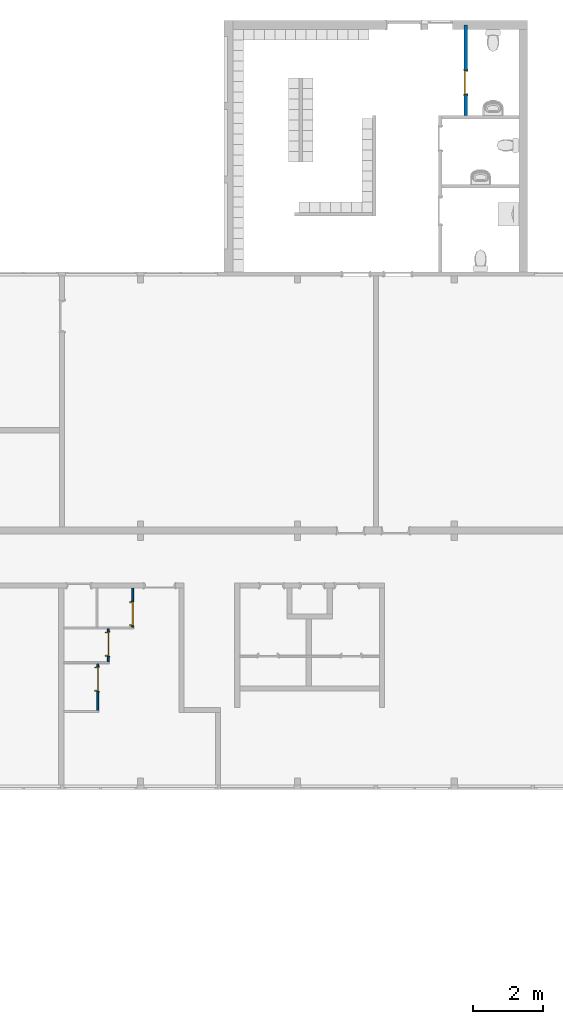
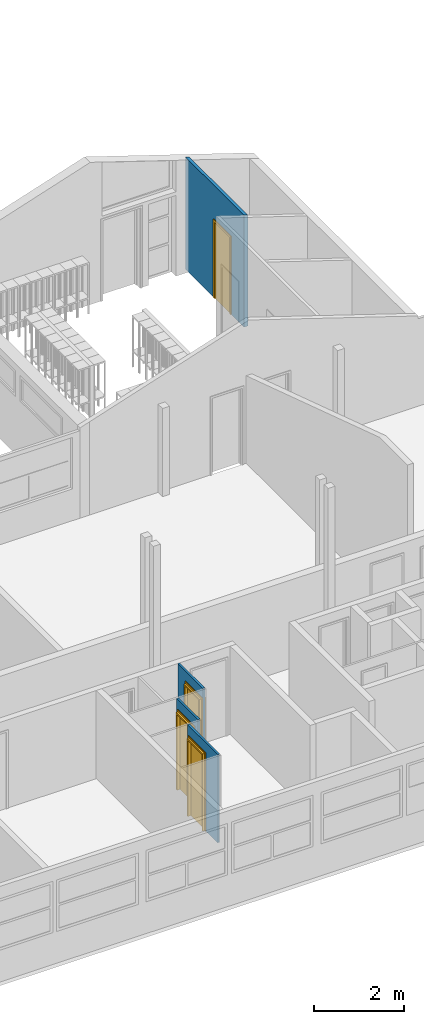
# One storey, part 5 of 48: 4 doors, 4 walls, 4 openings.
"""IFC2X3 building model written with IfcOpenShell, lengths in millimetres."""

from ifc_helpers import new_model, entity, si_unit, converted_unit, derived_unit, money_unit, direction, frame, origin_with_axes, place, context, subcontext, project, spatial, faceted_brep, source, transform, mapped, material, type_object, element, fill, save


model = new_model("IFC2X3")

# Units and contexts
model_context = context("Model", 3, precision=0.01, world=origin_with_axes(), true_north=direction((0.0, 1.0)))
body_context = subcontext(model_context, "Body", "Model", "MODEL_VIEW")
ifc_project = project(units=[si_unit("LENGTHUNIT", "METRE", prefix="MILLI"), si_unit("AREAUNIT", "SQUARE_METRE"), si_unit("VOLUMEUNIT", "CUBIC_METRE"), converted_unit("PLANEANGLEUNIT", "DEGREE", entity("IfcPlaneAngleMeasure", 0.0174532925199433), si_unit("PLANEANGLEUNIT", "RADIAN"), dimensions=[0, 0, 0, 0, 0, 0, 0]), money_unit("USD"), converted_unit("TIMEUNIT", "Year", entity("IfcTimeMeasure", 31557600.0), si_unit("TIMEUNIT", "SECOND"), dimensions=[0, 0, 1, 0, 0, 0, 0]), si_unit("MASSUNIT", "GRAM", prefix="KILO"), si_unit("THERMODYNAMICTEMPERATUREUNIT", "DEGREE_CELSIUS"), si_unit("LUMINOUSINTENSITYUNIT", "LUMEN"), si_unit("ENERGYUNIT", "JOULE", prefix="MEGA"), derived_unit("THERMALCONDUCTANCEUNIT", [(si_unit("POWERUNIT", "WATT"), 1), (si_unit("LENGTHUNIT", "METRE"), -1), (si_unit("THERMODYNAMICTEMPERATUREUNIT", "KELVIN"), -1)]), derived_unit("SPECIFICHEATCAPACITYUNIT", [(si_unit("ENERGYUNIT", "JOULE"), 1), (si_unit("MASSUNIT", "GRAM", prefix="KILO"), -1), (si_unit("THERMODYNAMICTEMPERATUREUNIT", "KELVIN"), -1)]), derived_unit("MASSDENSITYUNIT", [(si_unit("MASSUNIT", "GRAM", prefix="KILO"), 1), (si_unit("VOLUMEUNIT", "CUBIC_METRE"), -1)])], contexts=[model_context])

# Site, building, storey
site_placement = place(None, origin_with_axes())
site = spatial("IfcSite", under=ifc_project, at=site_placement, Name="Site", CompositionType="ELEMENT")
building_placement = place(site_placement, origin_with_axes())
building = spatial("IfcBuilding", under=site, at=building_placement, Name="Building", CompositionType="ELEMENT")
storey_placement = place(building_placement, frame((0.0, 0.0, 3300.0), z_axis=(0.0, 0.0, 1.0), x_axis=(1.0, 0.0, 0.0)))
storey = spatial("IfcBuildingStorey", under=building, at=storey_placement, Name="1 ETG", CompositionType="ELEMENT", Elevation=3300.0)

# Wall, opening, door
ifc_material = material(Name="GENERIC - INTERNAL FILLER")
wall_type_1 = type_object("IfcWallType", Name="GENERIC - INTERNAL FILLER 100", PredefinedType="NOTDEFINED")
wall_1_placement = place(storey_placement, frame((40825.01687202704, 26349.87493618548, 0.0), z_axis=(0.0, 0.0, 1.0), x_axis=(0.0, 1.0, 0.0)))
wall_1 = element("IfcWall", 1, at=wall_1_placement, inside=storey, type_object=wall_type_1, material=ifc_material, Name="SW - 001", context=body_context, shape_type="Brep", body=[
    faceted_brep([(652.3747442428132, -50.00000003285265, 0.0), (652.3747442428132, -50.00000003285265, 2100.0), (1352.374744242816, -50.00000006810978, 2100.0), (1352.374744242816, -50.00000006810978, 0.0), (2650.000086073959, -50.00000013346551, 0.0), (2650.000086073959, -50.00000013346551, 3017.347510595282), (50.00000698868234, -50.00000000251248, 3017.347510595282), (50.00000698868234, -50.00000000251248, 0.0), (652.3747442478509, 49.99999996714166, 0.0), (652.3747442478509, 49.99999996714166, 2100.0), (1352.374744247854, 49.99999993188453, 2100.0), (1352.374744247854, 49.99999993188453, 0.0), (2650.000086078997, 49.99999986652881, 0.0), (2650.000086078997, 49.99999986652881, 3049.83948021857), (49.99999301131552, 49.99999999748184, 3049.83948021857), (49.99999301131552, 49.99999999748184, 0.0)], [[[0, 1, 2, 3, 4, 5, 6, 7]], [[1, 0, 8, 9]], [[2, 1, 9, 10]], [[3, 2, 10, 11]], [[3, 11, 12, 4]], [[13, 5, 4, 12]], [[6, 5, 13, 14]], [[6, 14, 15, 7]], [[8, 0, 7, 15]], [[9, 8, 15, 14, 13, 12, 11, 10]]]),
])
opening_1_placement = place(wall_1_placement, frame((1002.374744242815, 5.048406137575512e-08, 0.0), z_axis=(0.0, 0.0, 1.0), x_axis=(1.0, 0.0, 0.0)))
opening_1 = element("IfcOpeningElement", 2, at=opening_1_placement, cuts=wall_1, Name="DOO - 002", context=body_context, shape_type="Brep", body=[
    faceted_brep([(350.0000000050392, 49.99999993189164, 0.0), (350.0000000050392, 49.99999993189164, 2100.0), (350.0000000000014, -50.00000006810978, 2100.0), (350.0000000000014, -50.00000006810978, 0.0), (-349.9999999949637, 49.99999996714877, 2100.0), (387.0000000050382, 49.99999993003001, 0.0), (387.0000000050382, 49.99999993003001, 2137.0), (-386.9999999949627, 49.99999996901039, 2137.0), (-386.9999999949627, 49.99999996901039, 0.0), (-349.9999999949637, 49.99999996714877, 0.0), (-350.0000000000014, -50.00000003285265, 2100.0), (-350.0000000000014, -50.00000003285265, 0.0), (-387.0000000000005, -50.00000003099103, 0.0), (-387.0000000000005, -50.00000003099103, 2137.0), (387.0000000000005, -50.00000006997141, 2137.0), (387.0000000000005, -50.00000006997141, 0.0), (350.0000000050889, 51.00000006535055, 0.0), (349.9999999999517, -51.00000006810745, 0.0), (-350.0000000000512, -51.00000003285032, 0.0), (-349.9999999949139, 51.00000010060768, 0.0), (387.0000000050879, 51.00000006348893, 0.0), (387.0000000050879, 51.00000006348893, 2137.0), (-386.999999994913, 51.0000001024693, 2137.0), (-386.999999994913, 51.0000001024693, 0.0), (-387.0000000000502, -51.0000000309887, 0.0), (-387.0000000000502, -51.0000000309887, 2137.0), (386.9999999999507, -51.00000006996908, 2137.0), (386.9999999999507, -51.00000006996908, 0.0), (350.0000000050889, 51.00000006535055, 2100.0), (-349.9999999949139, 51.00000010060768, 2100.0)], [[[0, 1, 2, 3]], [[4, 1, 0, 5, 6, 7, 8, 9]], [[1, 4, 10, 2]], [[3, 2, 10, 11, 12, 13, 14, 15]], [[16, 0, 3, 17, 18, 11, 9, 19]], [[0, 16, 20, 5]], [[6, 5, 20, 21]], [[7, 6, 21, 22]], [[8, 7, 22, 23]], [[19, 9, 8, 23]], [[4, 9, 11, 10]], [[11, 18, 24, 12]], [[13, 12, 24, 25]], [[14, 13, 25, 26]], [[15, 14, 26, 27]], [[17, 3, 15, 27]], [[17, 27, 26, 25, 24, 18]], [[28, 16, 19, 29]], [[16, 28, 29, 19, 23, 22, 21, 20]]]),
])
door_style_1 = type_object("IfcDoorStyle", Name="Dør", ConstructionType="NOTDEFINED", OperationType="SINGLE_SWING_LEFT", ParameterTakesPrecedence=False, Sizeable=False)
shared_shape_1 = source(origin_with_axes(), body_context, "Body", "Brep", [
    faceted_brep([(386.9999999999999, -119.0, 0.0), (336.9999999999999, -119.0, 0.0), (336.9999999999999, -100.0, 0.0), (386.9999999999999, -100.0, 0.0), (386.9999999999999, -119.0000000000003, 2137.0), (336.9999999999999, -119.0000000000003, 2087.0), (336.9999999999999, -100.0000000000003, 2087.0), (386.9999999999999, -100.0000000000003, 2137.0)], [[[0, 1, 2, 3]], [[0, 4, 5, 1]], [[1, 5, 6, 2]], [[3, 2, 6, 7]], [[4, 0, 3, 7]], [[5, 4, 7, 6]]]),
    faceted_brep([(-386.9999999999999, -119.0000000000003, 2137.0), (-336.9999999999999, -119.0000000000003, 2087.0), (-336.9999999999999, -100.0000000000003, 2087.0), (-386.9999999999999, -100.0000000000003, 2137.0), (-386.9999999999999, -119.0, 0.0), (-336.9999999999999, -119.0, 0.0), (-336.9999999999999, -100.0, 0.0), (-386.9999999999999, -100.0, 0.0)], [[[0, 1, 2, 3]], [[0, 4, 5, 1]], [[1, 5, 6, 2]], [[3, 2, 6, 7]], [[4, 0, 3, 7]], [[5, 4, 7, 6]]]),
    faceted_brep([(386.9999999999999, -119.0000000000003, 2137.0), (336.9999999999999, -119.0000000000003, 2087.0), (336.9999999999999, -100.0000000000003, 2087.0), (386.9999999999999, -100.0000000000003, 2137.0), (-386.9999999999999, -119.0000000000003, 2137.0), (-336.9999999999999, -119.0000000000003, 2087.0), (-336.9999999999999, -100.0000000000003, 2087.0), (-386.9999999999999, -100.0000000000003, 2137.0)], [[[0, 1, 2, 3]], [[0, 4, 5, 1]], [[1, 5, 6, 2]], [[3, 2, 6, 7]], [[4, 0, 3, 7]], [[5, 4, 7, 6]]]),
    faceted_brep([(386.9999999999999, 19.0, 0.0), (386.9999999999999, 0.0, 0.0), (336.9999999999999, 0.0, 0.0), (336.9999999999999, 19.0, 0.0), (386.9999999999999, 18.99999999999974, 2137.0), (386.9999999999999, 0.0, 2137.0), (336.9999999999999, 0.0, 2087.0), (336.9999999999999, 18.99999999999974, 2087.0)], [[[0, 1, 2, 3]], [[4, 5, 1, 0]], [[1, 5, 6, 2]], [[3, 2, 6, 7]], [[0, 3, 7, 4]], [[7, 6, 5, 4]]]),
    faceted_brep([(-386.9999999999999, 18.99999999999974, 2137.0), (-386.9999999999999, 0.0, 2137.0), (-336.9999999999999, 0.0, 2087.0), (-336.9999999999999, 18.99999999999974, 2087.0), (-386.9999999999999, 19.0, 0.0), (-386.9999999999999, 0.0, 0.0), (-336.9999999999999, 0.0, 0.0), (-336.9999999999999, 19.0, 0.0)], [[[0, 1, 2, 3]], [[4, 5, 1, 0]], [[1, 5, 6, 2]], [[3, 2, 6, 7]], [[0, 3, 7, 4]], [[7, 6, 5, 4]]]),
    faceted_brep([(387.0, 18.99999999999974, 2137.0), (387.0, 0.0, 2137.0), (336.9999999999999, 0.0, 2087.0), (336.9999999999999, 18.99999999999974, 2087.0), (-387.0, 18.99999999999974, 2137.0), (-387.0, 0.0, 2137.0), (-336.9999999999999, 0.0, 2087.0), (-336.9999999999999, 18.99999999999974, 2087.0)], [[[0, 1, 2, 3]], [[4, 5, 1, 0]], [[1, 5, 6, 2]], [[3, 2, 6, 7]], [[0, 3, 7, 4]], [[7, 6, 5, 4]]]),
    faceted_brep([(350.0, 0.0, 0.0), (350.0, -115.0, 0.0), (310.0, -115.0, 0.0), (310.0, 0.0, 0.0), (350.0, 0.0, 2060.0), (350.0, -115.0, 2060.0), (310.0, -115.0, 2060.0), (310.0, 0.0, 2060.0)], [[[0, 1, 2, 3]], [[4, 5, 1, 0]], [[1, 5, 6, 2]], [[3, 2, 6, 7]], [[0, 3, 7, 4]], [[7, 6, 5, 4]]]),
    faceted_brep([(-350.0, 0.0, 0.0), (-350.0, -115.0, 0.0), (-350.0, -115.0, 2060.0), (-350.0, 0.0, 2060.0), (-310.0, 0.0, 0.0), (-310.0, -115.0, 0.0), (-310.0, -115.0, 2060.0), (-310.0, 0.0, 2060.0)], [[[0, 1, 2, 3]], [[4, 5, 1, 0]], [[1, 5, 6, 2]], [[3, 2, 6, 7]], [[0, 3, 7, 4]], [[7, 6, 5, 4]]]),
    faceted_brep([(350.0, 0.0, 2100.0), (350.0, -115.0, 2100.0), (350.0, -115.0, 2060.0), (350.0, 0.0, 2060.0), (-350.0, 0.0, 2100.0), (-350.0, -115.0, 2100.0), (-350.0, -115.0, 2060.0), (-310.0, -115.0, 2060.0), (310.0, -115.0, 2060.0), (310.0, 0.0, 2060.0), (-310.0, 0.0, 2060.0), (-350.0, 0.0, 2060.0)], [[[0, 1, 2, 3]], [[4, 5, 1, 0]], [[1, 5, 6, 7, 8, 2]], [[3, 2, 8, 9]], [[0, 3, 9, 10, 11, 4]], [[11, 6, 5, 4]], [[10, 7, 6, 11]], [[9, 8, 7, 10]]]),
    faceted_brep([(-309.9999999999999, 0.0, 0.0), (310.0, 0.0, 0.0), (310.0, -40.0, 0.0), (-309.9999999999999, -40.0, 0.0), (-309.9999999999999, 0.0, 2060.0), (310.0, 0.0, 2060.0), (310.0, -40.00000000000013, 2060.0), (-309.9999999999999, -40.00000000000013, 2060.0)], [[[0, 1, 2, 3]], [[0, 4, 5, 1]], [[1, 5, 6, 2]], [[3, 2, 6, 7]], [[4, 0, 3, 7]], [[5, 4, 7, 6]]]),
])
door_1_placement = place(opening_1_placement, frame((-350.0000000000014, -1.762856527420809e-08, 0.0), z_axis=(0.0, 0.0, 1.0), x_axis=(1.0, 0.0, 0.0)))
door_1 = element("IfcDoor", 3, at=door_1_placement, inside=storey, type_object=door_style_1, Name="DOO - 002", ObjectType="DOOR", OverallHeight=2100.0, OverallWidth=700.0, context=body_context, shape_type="MappedRepresentation", body=[
    mapped(shared_shape_1, transform((350.0000000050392, 49.9999999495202, 0.0))),
])
fill(opening_1, door_1)

wall_type_2 = type_object("IfcWallType", Name="GENERIC - INTERNAL FILLER 50", PredefinedType="NOTDEFINED")
wall_2_placement = place(storey_placement, frame((30299.99985511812, 9285.59344184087, 0.0), z_axis=(0.0, 0.0, 1.0), x_axis=(0.0, 1.0, 0.0)))
wall_2 = element("IfcWall", 4, at=wall_2_placement, inside=storey, type_object=wall_type_2, material=ifc_material, Name="SW - 001", context=body_context, shape_type="Brep", body=[
    faceted_brep([(608.8052022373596, 0.0, 0.0), (608.8052022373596, 0.0, 2100.0), (1308.805202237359, 0.0, 2100.0), (1308.805202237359, 0.0, 0.0), (1399.999999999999, 0.0, 0.0), (1399.999999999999, 0.0, 2400.0), (50.00000000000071, 0.0, 2400.0), (50.00000000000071, 0.0, 0.0), (608.8052022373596, 50.00000000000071, 0.0), (608.8052022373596, 50.00000000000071, 2100.0), (1308.805202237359, 50.00000000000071, 2100.0), (1308.805202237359, 50.00000000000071, 0.0), (1399.999999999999, 50.00000000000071, 0.0), (1399.999999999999, 50.00000000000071, 2400.0), (50.00000000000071, 50.00000000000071, 2400.0), (50.00000000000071, 50.00000000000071, 0.0)], [[[0, 1, 2, 3, 4, 5, 6, 7]], [[1, 0, 8, 9]], [[2, 1, 9, 10]], [[3, 2, 10, 11]], [[3, 11, 12, 4]], [[12, 13, 5, 4]], [[13, 14, 6, 5]], [[15, 7, 6, 14]], [[8, 0, 7, 15]], [[9, 8, 15, 14, 13, 12, 11, 10]]]),
])
opening_2_placement = place(wall_2_placement, frame((958.8052022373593, 0.0, 0.0), z_axis=(0.0, 0.0, 1.0), x_axis=(1.0, 0.0, 0.0)))
opening_2 = element("IfcOpeningElement", 5, at=opening_2_placement, cuts=wall_2, Name="DOO - 002", context=body_context, shape_type="Brep", body=[
    faceted_brep([(349.9999999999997, -1.000000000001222, 0.0), (349.9999999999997, -1.000000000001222, 2100.0), (-349.9999999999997, -1.000000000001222, 2100.0), (-349.9999999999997, -1.000000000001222, 0.0), (387.0000000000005, -1.000000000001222, 0.0), (387.0000000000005, -1.000000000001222, 2137.0), (-387.0000000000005, -1.000000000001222, 2137.0), (-387.0000000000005, -1.000000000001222, 0.0), (349.9999999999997, 0.0, 0.0), (-349.9999999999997, 0.0, 0.0), (-349.9999999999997, 50.00000000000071, 0.0), (-349.9999999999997, 51.00000000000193, 0.0), (349.9999999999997, 51.00000000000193, 0.0), (349.9999999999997, 50.00000000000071, 0.0), (387.0000000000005, 0.0, 0.0), (387.0000000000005, 0.0, 2137.0), (-387.0000000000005, 0.0, 2137.0), (-387.0000000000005, 0.0, 0.0), (-349.9999999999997, 0.0, 2100.0), (-349.9999999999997, 50.00000000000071, 2100.0), (-387.0000000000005, 50.00000000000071, 0.0), (-387.0000000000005, 51.00000000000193, 0.0), (-387.0000000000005, 51.00000000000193, 2137.0), (387.0000000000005, 51.00000000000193, 2137.0), (387.0000000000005, 51.00000000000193, 0.0), (387.0000000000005, 50.00000000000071, 0.0), (349.9999999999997, 0.0, 2100.0), (349.9999999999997, 50.00000000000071, 2100.0), (387.0000000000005, 50.00000000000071, 2137.0), (-387.0000000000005, 50.00000000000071, 2137.0)], [[[0, 1, 2, 3]], [[2, 1, 0, 4, 5, 6, 7, 3]], [[8, 0, 3, 9, 10, 11, 12, 13]], [[0, 8, 14, 4]], [[14, 15, 5, 4]], [[15, 16, 6, 5]], [[16, 17, 7, 6]], [[9, 3, 7, 17]], [[9, 18, 19, 10]], [[11, 10, 20, 21]], [[12, 11, 21, 22, 23, 24]], [[13, 12, 24, 25]], [[26, 8, 13, 27]], [[8, 26, 18, 9, 17, 16, 15, 14]], [[18, 26, 27, 19]], [[19, 27, 13, 25, 28, 29, 20, 10]], [[20, 29, 22, 21]], [[29, 28, 23, 22]], [[28, 25, 24, 23]]]),
])
door_style_2 = type_object("IfcDoorStyle", Name="Dør", ConstructionType="NOTDEFINED", OperationType="SINGLE_SWING_LEFT", ParameterTakesPrecedence=False, Sizeable=False)
shared_shape_2 = source(origin_with_axes(), body_context, "Body", "Brep", [
    faceted_brep([(386.9999999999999, -69.0, 0.0), (336.9999999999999, -69.0, 0.0), (336.9999999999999, -50.0, 0.0), (386.9999999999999, -50.0, 0.0), (386.9999999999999, -69.00000000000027, 2137.0), (336.9999999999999, -69.00000000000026, 2087.0), (336.9999999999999, -50.00000000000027, 2087.0), (386.9999999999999, -50.00000000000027, 2137.0)], [[[0, 1, 2, 3]], [[0, 4, 5, 1]], [[1, 5, 6, 2]], [[3, 2, 6, 7]], [[4, 0, 3, 7]], [[5, 4, 7, 6]]]),
    faceted_brep([(-386.9999999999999, -69.00000000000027, 2137.0), (-336.9999999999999, -69.00000000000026, 2087.0), (-336.9999999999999, -50.00000000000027, 2087.0), (-386.9999999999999, -50.00000000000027, 2137.0), (-386.9999999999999, -69.0, 0.0), (-336.9999999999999, -69.0, 0.0), (-336.9999999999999, -50.0, 0.0), (-386.9999999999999, -50.0, 0.0)], [[[0, 1, 2, 3]], [[0, 4, 5, 1]], [[1, 5, 6, 2]], [[3, 2, 6, 7]], [[4, 0, 3, 7]], [[5, 4, 7, 6]]]),
    faceted_brep([(386.9999999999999, -69.00000000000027, 2137.0), (336.9999999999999, -69.00000000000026, 2087.0), (336.9999999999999, -50.00000000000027, 2087.0), (386.9999999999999, -50.00000000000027, 2137.0), (-386.9999999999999, -69.00000000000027, 2137.0), (-336.9999999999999, -69.00000000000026, 2087.0), (-336.9999999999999, -50.00000000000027, 2087.0), (-386.9999999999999, -50.00000000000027, 2137.0)], [[[0, 1, 2, 3]], [[0, 4, 5, 1]], [[1, 5, 6, 2]], [[3, 2, 6, 7]], [[4, 0, 3, 7]], [[5, 4, 7, 6]]]),
    faceted_brep([(386.9999999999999, 19.0, 0.0), (386.9999999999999, 0.0, 0.0), (336.9999999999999, 0.0, 0.0), (336.9999999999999, 19.0, 0.0), (386.9999999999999, 18.99999999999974, 2137.0), (386.9999999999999, 0.0, 2137.0), (336.9999999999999, 0.0, 2087.0), (336.9999999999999, 18.99999999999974, 2087.0)], [[[0, 1, 2, 3]], [[4, 5, 1, 0]], [[1, 5, 6, 2]], [[3, 2, 6, 7]], [[0, 3, 7, 4]], [[7, 6, 5, 4]]]),
    faceted_brep([(-386.9999999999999, 18.99999999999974, 2137.0), (-386.9999999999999, 0.0, 2137.0), (-336.9999999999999, 0.0, 2087.0), (-336.9999999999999, 18.99999999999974, 2087.0), (-386.9999999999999, 19.0, 0.0), (-386.9999999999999, 0.0, 0.0), (-336.9999999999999, 0.0, 0.0), (-336.9999999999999, 19.0, 0.0)], [[[0, 1, 2, 3]], [[4, 5, 1, 0]], [[1, 5, 6, 2]], [[3, 2, 6, 7]], [[0, 3, 7, 4]], [[7, 6, 5, 4]]]),
    faceted_brep([(387.0, 18.99999999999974, 2137.0), (387.0, 0.0, 2137.0), (336.9999999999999, 0.0, 2087.0), (336.9999999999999, 18.99999999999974, 2087.0), (-387.0, 18.99999999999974, 2137.0), (-387.0, 0.0, 2137.0), (-336.9999999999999, 0.0, 2087.0), (-336.9999999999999, 18.99999999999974, 2087.0)], [[[0, 1, 2, 3]], [[4, 5, 1, 0]], [[1, 5, 6, 2]], [[3, 2, 6, 7]], [[0, 3, 7, 4]], [[7, 6, 5, 4]]]),
    faceted_brep([(350.0, 0.0, 0.0), (350.0, -115.0, 0.0), (310.0, -115.0, 0.0), (310.0, 0.0, 0.0), (350.0, 0.0, 2060.0), (350.0, -115.0, 2060.0), (310.0, -115.0, 2060.0), (310.0, 0.0, 2060.0)], [[[0, 1, 2, 3]], [[4, 5, 1, 0]], [[1, 5, 6, 2]], [[3, 2, 6, 7]], [[0, 3, 7, 4]], [[7, 6, 5, 4]]]),
    faceted_brep([(-350.0, 0.0, 0.0), (-350.0, -115.0, 0.0), (-350.0, -115.0, 2060.0), (-350.0, 0.0, 2060.0), (-310.0, 0.0, 0.0), (-310.0, -115.0, 0.0), (-310.0, -115.0, 2060.0), (-310.0, 0.0, 2060.0)], [[[0, 1, 2, 3]], [[4, 5, 1, 0]], [[1, 5, 6, 2]], [[3, 2, 6, 7]], [[0, 3, 7, 4]], [[7, 6, 5, 4]]]),
    faceted_brep([(350.0, 0.0, 2100.0), (350.0, -115.0, 2100.0), (350.0, -115.0, 2060.0), (350.0, 0.0, 2060.0), (-350.0, 0.0, 2100.0), (-350.0, -115.0, 2100.0), (-350.0, -115.0, 2060.0), (-310.0, -115.0, 2060.0), (310.0, -115.0, 2060.0), (310.0, 0.0, 2060.0), (-310.0, 0.0, 2060.0), (-350.0, 0.0, 2060.0)], [[[0, 1, 2, 3]], [[4, 5, 1, 0]], [[1, 5, 6, 7, 8, 2]], [[3, 2, 8, 9]], [[0, 3, 9, 10, 11, 4]], [[11, 6, 5, 4]], [[10, 7, 6, 11]], [[9, 8, 7, 10]]]),
    faceted_brep([(-309.9999999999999, 0.0, 0.0), (310.0, 0.0, 0.0), (310.0, -40.0, 0.0), (-309.9999999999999, -40.0, 0.0), (-309.9999999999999, 0.0, 2060.0), (310.0, 0.0, 2060.0), (310.0, -40.00000000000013, 2060.0), (-309.9999999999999, -40.00000000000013, 2060.0)], [[[0, 1, 2, 3]], [[0, 4, 5, 1]], [[1, 5, 6, 2]], [[3, 2, 6, 7]], [[4, 0, 3, 7]], [[5, 4, 7, 6]]]),
])
door_2_placement = place(opening_2_placement, frame((349.9999999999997, 0.0, 0.0), z_axis=(0.0, 0.0, 1.0), x_axis=(-1.0, 0.0, 0.0)))
door_2 = element("IfcDoor", 6, at=door_2_placement, inside=storey, type_object=door_style_2, Name="DOO - 002", ObjectType="DOOR", OverallHeight=2100.0, OverallWidth=700.0, context=body_context, shape_type="MappedRepresentation", body=[
    mapped(shared_shape_2, transform((349.9999999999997, 0.0, 0.0))),
])
fill(opening_2, door_2)

wall_3_placement = place(storey_placement, frame((30599.99985511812, 10685.59344184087, 0.0), z_axis=(0.0, 0.0, 1.0), x_axis=(0.0, 1.0, 0.0)))
wall_3 = element("IfcWall", 7, at=wall_3_placement, inside=storey, type_object=wall_type_2, material=ifc_material, Name="SW - 001", context=body_context, shape_type="Brep", body=[
    faceted_brep([(212.4792003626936, 0.0, 0.0), (212.4792003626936, 0.0, 2100.0), (912.479200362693, 0.0, 2100.0), (912.479200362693, 0.0, 0.0), (1000.0, 0.0, 0.0), (1000.0, 0.0, 2400.0), (50.00000000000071, 0.0, 2400.0), (50.00000000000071, 0.0, 0.0), (212.4792003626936, 50.00000000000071, 0.0), (212.4792003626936, 50.00000000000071, 2100.0), (912.479200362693, 50.00000000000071, 2100.0), (912.479200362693, 50.00000000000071, 0.0), (1000.0, 50.00000000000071, 0.0), (1000.0, 50.00000000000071, 2400.0), (50.00000000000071, 50.00000000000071, 2400.0), (50.00000000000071, 50.00000000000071, 0.0)], [[[0, 1, 2, 3, 4, 5, 6, 7]], [[1, 0, 8, 9]], [[2, 1, 9, 10]], [[3, 2, 10, 11]], [[3, 11, 12, 4]], [[12, 13, 5, 4]], [[13, 14, 6, 5]], [[15, 7, 6, 14]], [[8, 0, 7, 15]], [[9, 8, 15, 14, 13, 12, 11, 10]]]),
])
opening_3_placement = place(wall_3_placement, frame((562.4792003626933, 0.0, 0.0), z_axis=(0.0, 0.0, 1.0), x_axis=(1.0, 0.0, 0.0)))
opening_3 = element("IfcOpeningElement", 8, at=opening_3_placement, cuts=wall_3, Name="DOO - 002", context=body_context, shape_type="Brep", body=[
    faceted_brep([(349.9999999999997, -1.000000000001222, 0.0), (349.9999999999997, -1.000000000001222, 2100.0), (-349.9999999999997, -1.000000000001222, 2100.0), (-349.9999999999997, -1.000000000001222, 0.0), (387.0000000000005, -1.000000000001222, 0.0), (387.0000000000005, -1.000000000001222, 2137.0), (-387.0000000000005, -1.000000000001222, 2137.0), (-387.0000000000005, -1.000000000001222, 0.0), (349.9999999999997, 0.0, 0.0), (-349.9999999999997, 0.0, 0.0), (-349.9999999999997, 50.00000000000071, 0.0), (-349.9999999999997, 51.00000000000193, 0.0), (349.9999999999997, 51.00000000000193, 0.0), (349.9999999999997, 50.00000000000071, 0.0), (387.0000000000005, 0.0, 0.0), (387.0000000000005, 0.0, 2137.0), (-387.0000000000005, 0.0, 2137.0), (-387.0000000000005, 0.0, 0.0), (-349.9999999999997, 0.0, 2100.0), (-349.9999999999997, 50.00000000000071, 2100.0), (-387.0000000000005, 50.00000000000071, 0.0), (-387.0000000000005, 51.00000000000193, 0.0), (-387.0000000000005, 51.00000000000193, 2137.0), (387.0000000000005, 51.00000000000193, 2137.0), (387.0000000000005, 51.00000000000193, 0.0), (387.0000000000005, 50.00000000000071, 0.0), (349.9999999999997, 0.0, 2100.0), (349.9999999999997, 50.00000000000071, 2100.0), (387.0000000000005, 50.00000000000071, 2137.0), (-387.0000000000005, 50.00000000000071, 2137.0)], [[[0, 1, 2, 3]], [[2, 1, 0, 4, 5, 6, 7, 3]], [[8, 0, 3, 9, 10, 11, 12, 13]], [[0, 8, 14, 4]], [[14, 15, 5, 4]], [[15, 16, 6, 5]], [[16, 17, 7, 6]], [[9, 3, 7, 17]], [[9, 18, 19, 10]], [[11, 10, 20, 21]], [[12, 11, 21, 22, 23, 24]], [[13, 12, 24, 25]], [[26, 8, 13, 27]], [[8, 26, 18, 9, 17, 16, 15, 14]], [[18, 26, 27, 19]], [[19, 27, 13, 25, 28, 29, 20, 10]], [[20, 29, 22, 21]], [[29, 28, 23, 22]], [[28, 25, 24, 23]]]),
])
door_3_placement = place(opening_3_placement, frame((349.9999999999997, 0.0, 0.0), z_axis=(0.0, 0.0, 1.0), x_axis=(-1.0, 0.0, 0.0)))
door_3 = element("IfcDoor", 9, at=door_3_placement, inside=storey, type_object=door_style_2, Name="DOO - 002", ObjectType="DOOR", OverallHeight=2100.0, OverallWidth=700.0, context=body_context, shape_type="MappedRepresentation", body=[
    mapped(shared_shape_2, transform((349.9999999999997, 0.0, 0.0))),
])
fill(opening_3, door_3)

wall_4_placement = place(storey_placement, frame((31299.99985511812, 11685.59344184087, 0.0), z_axis=(0.0, 0.0, 1.0), x_axis=(0.0, 1.0, 0.0)))
wall_4 = element("IfcWall", 10, at=wall_4_placement, inside=storey, type_object=wall_type_2, material=ifc_material, Name="SW - 001", context=body_context, shape_type="Brep", body=[
    faceted_brep([(81.20543403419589, 0.0, 0.0), (81.20543403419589, 0.0, 2100.0), (781.2054340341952, 0.0, 2100.0), (781.2054340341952, 0.0, 0.0), (1164.281534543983, 0.0, 0.0), (1164.281534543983, 0.0, 2400.0), (50.00000000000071, 0.0, 2400.0), (50.00000000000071, 0.0, 0.0), (81.20543403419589, 50.00000000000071, 0.0), (81.20543403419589, 50.00000000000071, 2100.0), (781.2054340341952, 50.00000000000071, 2100.0), (781.2054340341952, 50.00000000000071, 0.0), (1164.281534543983, 50.00000000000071, 0.0), (1164.281534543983, 50.00000000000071, 2400.0), (50.00000000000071, 50.00000000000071, 2400.0), (50.00000000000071, 50.00000000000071, 0.0)], [[[0, 1, 2, 3, 4, 5, 6, 7]], [[1, 0, 8, 9]], [[2, 1, 9, 10]], [[3, 2, 10, 11]], [[3, 11, 12, 4]], [[12, 13, 5, 4]], [[13, 14, 6, 5]], [[15, 7, 6, 14]], [[8, 0, 7, 15]], [[9, 8, 15, 14, 13, 12, 11, 10]]]),
])
opening_4_placement = place(wall_4_placement, frame((431.2054340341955, 0.0, 0.0), z_axis=(0.0, 0.0, 1.0), x_axis=(1.0, 0.0, 0.0)))
opening_4 = element("IfcOpeningElement", 11, at=opening_4_placement, cuts=wall_4, Name="DOO - 002", context=body_context, shape_type="Brep", body=[
    faceted_brep([(349.9999999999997, -1.000000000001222, 0.0), (349.9999999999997, -1.000000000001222, 2100.0), (-349.9999999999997, -1.000000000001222, 2100.0), (-349.9999999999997, -1.000000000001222, 0.0), (387.0000000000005, -1.000000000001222, 0.0), (387.0000000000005, -1.000000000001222, 2137.0), (-387.0000000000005, -1.000000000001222, 2137.0), (-387.0000000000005, -1.000000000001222, 0.0), (349.9999999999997, 0.0, 0.0), (-349.9999999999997, 0.0, 0.0), (-349.9999999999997, 50.00000000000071, 0.0), (-349.9999999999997, 51.00000000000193, 0.0), (349.9999999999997, 51.00000000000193, 0.0), (349.9999999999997, 50.00000000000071, 0.0), (387.0000000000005, 0.0, 0.0), (387.0000000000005, 0.0, 2137.0), (-387.0000000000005, 0.0, 2137.0), (-387.0000000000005, 0.0, 0.0), (-349.9999999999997, 0.0, 2100.0), (-349.9999999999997, 50.00000000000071, 2100.0), (-387.0000000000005, 50.00000000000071, 0.0), (-387.0000000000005, 51.00000000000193, 0.0), (-387.0000000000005, 51.00000000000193, 2137.0), (387.0000000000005, 51.00000000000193, 2137.0), (387.0000000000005, 51.00000000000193, 0.0), (387.0000000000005, 50.00000000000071, 0.0), (349.9999999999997, 0.0, 2100.0), (349.9999999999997, 50.00000000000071, 2100.0), (387.0000000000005, 50.00000000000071, 2137.0), (-387.0000000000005, 50.00000000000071, 2137.0)], [[[0, 1, 2, 3]], [[2, 1, 0, 4, 5, 6, 7, 3]], [[8, 0, 3, 9, 10, 11, 12, 13]], [[0, 8, 14, 4]], [[14, 15, 5, 4]], [[15, 16, 6, 5]], [[16, 17, 7, 6]], [[9, 3, 7, 17]], [[9, 18, 19, 10]], [[11, 10, 20, 21]], [[12, 11, 21, 22, 23, 24]], [[13, 12, 24, 25]], [[26, 8, 13, 27]], [[8, 26, 18, 9, 17, 16, 15, 14]], [[18, 26, 27, 19]], [[19, 27, 13, 25, 28, 29, 20, 10]], [[20, 29, 22, 21]], [[29, 28, 23, 22]], [[28, 25, 24, 23]]]),
])
door_4_placement = place(opening_4_placement, frame((349.9999999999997, 0.0, 0.0), z_axis=(0.0, 0.0, 1.0), x_axis=(-1.0, 0.0, 0.0)))
door_4 = element("IfcDoor", 12, at=door_4_placement, inside=storey, type_object=door_style_2, Name="DOO - 002", ObjectType="DOOR", OverallHeight=2100.0, OverallWidth=700.0, context=body_context, shape_type="MappedRepresentation", body=[
    mapped(shared_shape_2, transform((349.9999999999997, 0.0, 0.0))),
])
fill(opening_4, door_4)

save(model, "model.ifc")
